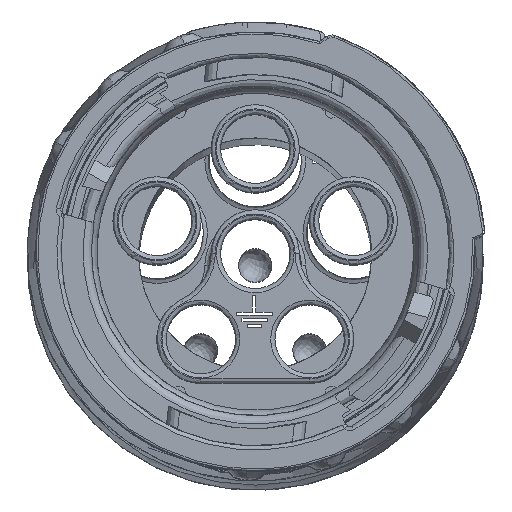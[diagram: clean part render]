
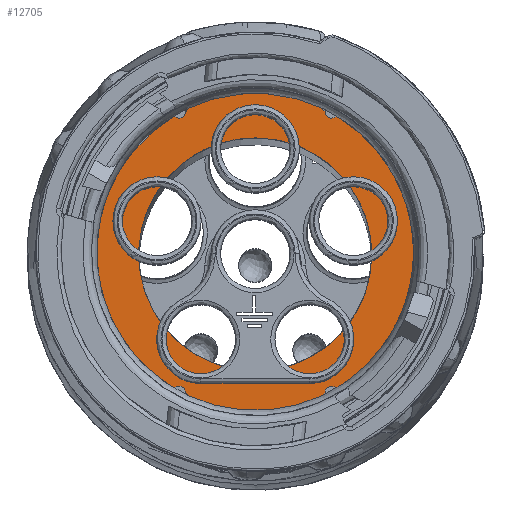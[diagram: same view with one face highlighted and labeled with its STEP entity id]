
A CAD part, top view. The second image highlights one B-rep face of the part: STEP entity #12705.
In plain terms, the highlighted planar face has unit normal (0, 0, -1).
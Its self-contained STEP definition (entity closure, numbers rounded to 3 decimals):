
#1285 = PLANE ( 'NONE',  #30169 ) ;
#4086 = VERTEX_POINT ( 'NONE', #32462 ) ;
#5345 = DIRECTION ( 'NONE',  ( -1., 0., 0. ) ) ;
#6077 = AXIS2_PLACEMENT_3D ( 'NONE', #9126, #13489, #5345 ) ;
#8130 = DIRECTION ( 'NONE',  ( -1., 0., 0. ) ) ;
#9055 = CIRCLE ( 'NONE', #6077, 7.692 ) ;
#9126 = CARTESIAN_POINT ( 'NONE',  ( 2.379, -2.769, -45.788 ) ) ;
#12705 = ADVANCED_FACE ( 'NONE', ( #25312, #44023 ), #1285, .T. ) ;
#13489 = DIRECTION ( 'NONE',  ( 0., 0., -1. ) ) ;
#19563 = DIRECTION ( 'NONE',  ( 0., 0., -1. ) ) ;
#23412 = CARTESIAN_POINT ( 'NONE',  ( -3.171, -2.769, -45.788 ) ) ;
#24610 = EDGE_LOOP ( 'NONE', ( #48090 ) ) ;
#25312 = FACE_OUTER_BOUND ( 'NONE', #24610, .T. ) ;
#26904 = CIRCLE ( 'NONE', #54774, 5.55 ) ;
#30169 = AXIS2_PLACEMENT_3D ( 'NONE', #44338, #54006, #8130 ) ;
#32462 = CARTESIAN_POINT ( 'NONE',  ( -5.313, -2.769, -45.788 ) ) ;
#33947 = EDGE_LOOP ( 'NONE', ( #34306 ) ) ;
#34306 = ORIENTED_EDGE ( 'NONE', *, *, #40521, .F. ) ;
#37744 = EDGE_CURVE ( 'NONE', #4086, #4086, #9055, .T. ) ;
#38871 = CARTESIAN_POINT ( 'NONE',  ( 2.379, -2.769, -45.788 ) ) ;
#40521 = EDGE_CURVE ( 'NONE', #56770, #56770, #26904, .T. ) ;
#43860 = DIRECTION ( 'NONE',  ( -1., 0., 0. ) ) ;
#44023 = FACE_BOUND ( 'NONE', #33947, .T. ) ;
#44338 = CARTESIAN_POINT ( 'NONE',  ( 2.379, -2.769, -45.788 ) ) ;
#48090 = ORIENTED_EDGE ( 'NONE', *, *, #37744, .T. ) ;
#54006 = DIRECTION ( 'NONE',  ( 0., 0., -1. ) ) ;
#54774 = AXIS2_PLACEMENT_3D ( 'NONE', #38871, #19563, #43860 ) ;
#56770 = VERTEX_POINT ( 'NONE', #23412 ) ;
